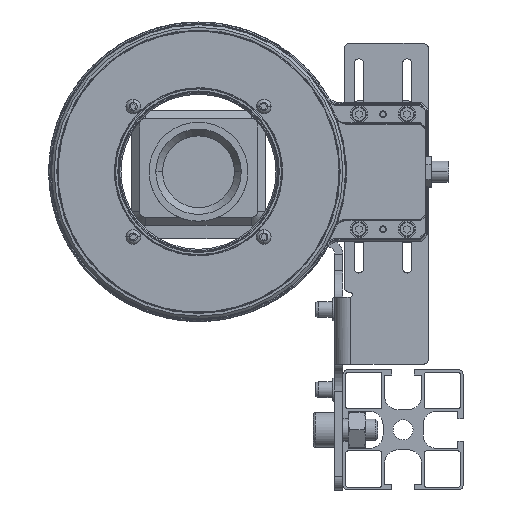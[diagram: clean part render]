
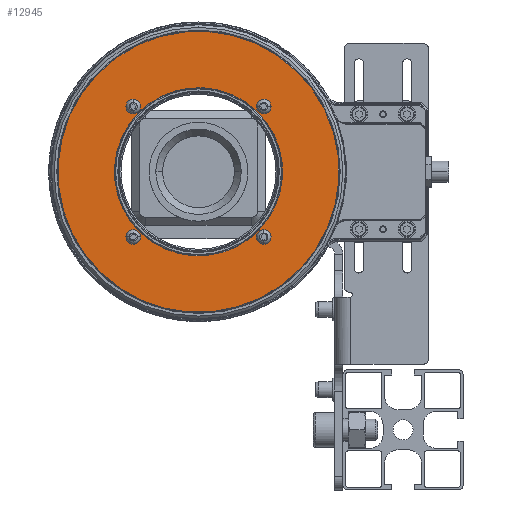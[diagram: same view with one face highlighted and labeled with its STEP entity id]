
A CAD part, front view. The second image highlights one B-rep face of the part: STEP entity #12945.
In plain terms, the highlighted planar face has unit normal (0, -1, 0) as drawn and (0, 0, 1) by its records, which use the part's own axes.
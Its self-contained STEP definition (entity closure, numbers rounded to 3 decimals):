
#75 = CIRCLE ( 'NONE', #26680, 52.55 ) ;
#272 = AXIS2_PLACEMENT_3D ( 'NONE', #32435, #11408, #35946 ) ;
#825 = VERTEX_POINT ( 'NONE', #9367 ) ;
#965 = CARTESIAN_POINT ( 'NONE',  ( -16.139, -29.53, 3. ) ) ;
#1304 = DIRECTION ( 'NONE',  ( 1., 0., 0. ) ) ;
#1337 = CIRCLE ( 'NONE', #39457, 52.55 ) ;
#1613 = CIRCLE ( 'NONE', #1719, 1.7 ) ;
#1719 = AXIS2_PLACEMENT_3D ( 'NONE', #13193, #37680, #16769 ) ;
#1932 = EDGE_LOOP ( 'NONE', ( #17086, #15837 ) ) ;
#1992 = VERTEX_POINT ( 'NONE', #8109 ) ;
#2078 = DIRECTION ( 'NONE',  ( 0., 0., 1. ) ) ;
#2293 = VERTEX_POINT ( 'NONE', #21594 ) ;
#2485 = CARTESIAN_POINT ( 'NONE',  ( -29.53, 17.839, 3. ) ) ;
#2571 = CARTESIAN_POINT ( 'NONE',  ( -27.83, 17.839, 3. ) ) ;
#3421 = DIRECTION ( 'NONE',  ( 1., 0., 0. ) ) ;
#4878 = DIRECTION ( 'NONE',  ( 0., 0., -1. ) ) ;
#5070 = ORIENTED_EDGE ( 'NONE', *, *, #18213, .T. ) ;
#5560 = VERTEX_POINT ( 'NONE', #37914 ) ;
#5979 = DIRECTION ( 'NONE',  ( 1., 0., 0. ) ) ;
#6446 = EDGE_CURVE ( 'NONE', #2293, #10708, #19377, .T. ) ;
#6538 = CIRCLE ( 'NONE', #12263, 1.7 ) ;
#6856 = CIRCLE ( 'NONE', #15390, 1.7 ) ;
#6862 = ORIENTED_EDGE ( 'NONE', *, *, #23832, .F. ) ;
#7126 = VERTEX_POINT ( 'NONE', #20271 ) ;
#7488 = AXIS2_PLACEMENT_3D ( 'NONE', #37032, #33657, #12683 ) ;
#8109 = CARTESIAN_POINT ( 'NONE',  ( -31.23, 17.839, 3. ) ) ;
#8235 = CIRCLE ( 'NONE', #272, 1.7 ) ;
#8345 = EDGE_CURVE ( 'NONE', #825, #11607, #1613, .T. ) ;
#8356 = VERTEX_POINT ( 'NONE', #2571 ) ;
#8633 = DIRECTION ( 'NONE',  ( 0., 0., 1. ) ) ;
#8864 = FACE_OUTER_BOUND ( 'NONE', #27436, .T. ) ;
#9140 = CARTESIAN_POINT ( 'NONE',  ( 0., 0., 3. ) ) ;
#9367 = CARTESIAN_POINT ( 'NONE',  ( -19.539, -29.53, 3. ) ) ;
#9432 = AXIS2_PLACEMENT_3D ( 'NONE', #25933, #4878, #29442 ) ;
#10462 = CARTESIAN_POINT ( 'NONE',  ( 31.45, 0., 3. ) ) ;
#10708 = VERTEX_POINT ( 'NONE', #10462 ) ;
#11234 = DIRECTION ( 'NONE',  ( 0., 0., 1. ) ) ;
#11408 = DIRECTION ( 'NONE',  ( 0., 0., 1. ) ) ;
#11607 = VERTEX_POINT ( 'NONE', #965 ) ;
#12263 = AXIS2_PLACEMENT_3D ( 'NONE', #29678, #8633, #33181 ) ;
#12528 = CIRCLE ( 'NONE', #31605, 1.7 ) ;
#12683 = DIRECTION ( 'NONE',  ( 1., 0., 0. ) ) ;
#12717 = DIRECTION ( 'NONE',  ( 1., 0., 0. ) ) ;
#12945 = ADVANCED_FACE ( 'NONE', ( #27560, #19361, #37977, #36862, #18286, #8864 ), #26654, .T. ) ;
#13009 = CARTESIAN_POINT ( 'NONE',  ( 52.55, 0., 3. ) ) ;
#13193 = CARTESIAN_POINT ( 'NONE',  ( -17.839, -29.53, 3. ) ) ;
#13566 = EDGE_CURVE ( 'NONE', #8356, #1992, #12528, .T. ) ;
#14802 = ORIENTED_EDGE ( 'NONE', *, *, #30040, .T. ) ;
#15179 = DIRECTION ( 'NONE',  ( 0., 0., 1. ) ) ;
#15351 = VERTEX_POINT ( 'NONE', #45413 ) ;
#15390 = AXIS2_PLACEMENT_3D ( 'NONE', #45393, #24463, #3421 ) ;
#15837 = ORIENTED_EDGE ( 'NONE', *, *, #26350, .F. ) ;
#16533 = AXIS2_PLACEMENT_3D ( 'NONE', #32247, #11234, #35778 ) ;
#16769 = DIRECTION ( 'NONE',  ( 1., 0., 0. ) ) ;
#17086 = ORIENTED_EDGE ( 'NONE', *, *, #13566, .F. ) ;
#18213 = EDGE_CURVE ( 'NONE', #10708, #2293, #36813, .T. ) ;
#18286 = FACE_BOUND ( 'NONE', #35882, .T. ) ;
#19361 = FACE_BOUND ( 'NONE', #30283, .T. ) ;
#19377 = CIRCLE ( 'NONE', #33083, 31.45 ) ;
#20271 = CARTESIAN_POINT ( 'NONE',  ( 31.23, -17.839, 3. ) ) ;
#21594 = CARTESIAN_POINT ( 'NONE',  ( -31.45, 0., 3. ) ) ;
#22335 = ORIENTED_EDGE ( 'NONE', *, *, #6446, .T. ) ;
#22362 = DIRECTION ( 'NONE',  ( 0., 0., 1. ) ) ;
#23141 = CARTESIAN_POINT ( 'NONE',  ( 0., 0., 3. ) ) ;
#23392 = EDGE_CURVE ( 'NONE', #5560, #7126, #40053, .T. ) ;
#23612 = ORIENTED_EDGE ( 'NONE', *, *, #39523, .T. ) ;
#23832 = EDGE_CURVE ( 'NONE', #7126, #5560, #40010, .T. ) ;
#24463 = DIRECTION ( 'NONE',  ( 0., 0., 1. ) ) ;
#24929 = ORIENTED_EDGE ( 'NONE', *, *, #29559, .F. ) ;
#24944 = AXIS2_PLACEMENT_3D ( 'NONE', #43300, #22362, #1304 ) ;
#25009 = DIRECTION ( 'NONE',  ( 1., 0., 0. ) ) ;
#25933 = CARTESIAN_POINT ( 'NONE',  ( 0., 0., 3. ) ) ;
#26140 = AXIS2_PLACEMENT_3D ( 'NONE', #36130, #15179, #39654 ) ;
#26350 = EDGE_CURVE ( 'NONE', #1992, #8356, #8235, .T. ) ;
#26654 = PLANE ( 'NONE',  #7488 ) ;
#26659 = DIRECTION ( 'NONE',  ( 1., 0., 0. ) ) ;
#26680 = AXIS2_PLACEMENT_3D ( 'NONE', #9140, #33677, #12717 ) ;
#27041 = DIRECTION ( 'NONE',  ( 0., 0., 1. ) ) ;
#27436 = EDGE_LOOP ( 'NONE', ( #14802, #23612 ) ) ;
#27560 = FACE_BOUND ( 'NONE', #35023, .T. ) ;
#28229 = VERTEX_POINT ( 'NONE', #37082 ) ;
#28505 = DIRECTION ( 'NONE',  ( 0., 0., -1. ) ) ;
#29442 = DIRECTION ( 'NONE',  ( 1., 0., 0. ) ) ;
#29559 = EDGE_CURVE ( 'NONE', #28229, #38674, #6856, .T. ) ;
#29678 = CARTESIAN_POINT ( 'NONE',  ( 17.839, 29.53, 3. ) ) ;
#29722 = ORIENTED_EDGE ( 'NONE', *, *, #40238, .F. ) ;
#29807 = ORIENTED_EDGE ( 'NONE', *, *, #23392, .F. ) ;
#30040 = EDGE_CURVE ( 'NONE', #15351, #44593, #1337, .T. ) ;
#30283 = EDGE_LOOP ( 'NONE', ( #6862, #29807 ) ) ;
#31306 = CARTESIAN_POINT ( 'NONE',  ( 19.539, 29.53, 3. ) ) ;
#31593 = EDGE_LOOP ( 'NONE', ( #29722, #24929 ) ) ;
#31605 = AXIS2_PLACEMENT_3D ( 'NONE', #2485, #27041, #5979 ) ;
#32247 = CARTESIAN_POINT ( 'NONE',  ( 29.53, -17.839, 3. ) ) ;
#32435 = CARTESIAN_POINT ( 'NONE',  ( -29.53, 17.839, 3. ) ) ;
#33083 = AXIS2_PLACEMENT_3D ( 'NONE', #36872, #28505, #25009 ) ;
#33181 = DIRECTION ( 'NONE',  ( 1., 0., 0. ) ) ;
#33657 = DIRECTION ( 'NONE',  ( 0., 0., 1. ) ) ;
#33677 = DIRECTION ( 'NONE',  ( 0., 0., 1. ) ) ;
#34004 = CIRCLE ( 'NONE', #24944, 1.7 ) ;
#35023 = EDGE_LOOP ( 'NONE', ( #35278, #39206 ) ) ;
#35278 = ORIENTED_EDGE ( 'NONE', *, *, #39933, .F. ) ;
#35778 = DIRECTION ( 'NONE',  ( 1., 0., 0. ) ) ;
#35882 = EDGE_LOOP ( 'NONE', ( #5070, #22335 ) ) ;
#35946 = DIRECTION ( 'NONE',  ( 1., 0., 0. ) ) ;
#36130 = CARTESIAN_POINT ( 'NONE',  ( 29.53, -17.839, 3. ) ) ;
#36813 = CIRCLE ( 'NONE', #9432, 31.45 ) ;
#36862 = FACE_BOUND ( 'NONE', #1932, .T. ) ;
#36872 = CARTESIAN_POINT ( 'NONE',  ( 0., 0., 3. ) ) ;
#37032 = CARTESIAN_POINT ( 'NONE',  ( 0., 0., 3. ) ) ;
#37082 = CARTESIAN_POINT ( 'NONE',  ( 16.139, 29.53, 3. ) ) ;
#37680 = DIRECTION ( 'NONE',  ( 0., 0., 1. ) ) ;
#37914 = CARTESIAN_POINT ( 'NONE',  ( 27.83, -17.839, 3. ) ) ;
#37977 = FACE_BOUND ( 'NONE', #31593, .T. ) ;
#38674 = VERTEX_POINT ( 'NONE', #31306 ) ;
#39206 = ORIENTED_EDGE ( 'NONE', *, *, #8345, .F. ) ;
#39457 = AXIS2_PLACEMENT_3D ( 'NONE', #23141, #2078, #26659 ) ;
#39523 = EDGE_CURVE ( 'NONE', #44593, #15351, #75, .T. ) ;
#39654 = DIRECTION ( 'NONE',  ( 1., 0., 0. ) ) ;
#39933 = EDGE_CURVE ( 'NONE', #11607, #825, #34004, .T. ) ;
#40010 = CIRCLE ( 'NONE', #16533, 1.7 ) ;
#40053 = CIRCLE ( 'NONE', #26140, 1.7 ) ;
#40238 = EDGE_CURVE ( 'NONE', #38674, #28229, #6538, .T. ) ;
#43300 = CARTESIAN_POINT ( 'NONE',  ( -17.839, -29.53, 3. ) ) ;
#44593 = VERTEX_POINT ( 'NONE', #13009 ) ;
#45393 = CARTESIAN_POINT ( 'NONE',  ( 17.839, 29.53, 3. ) ) ;
#45413 = CARTESIAN_POINT ( 'NONE',  ( -52.55, 0., 3. ) ) ;
